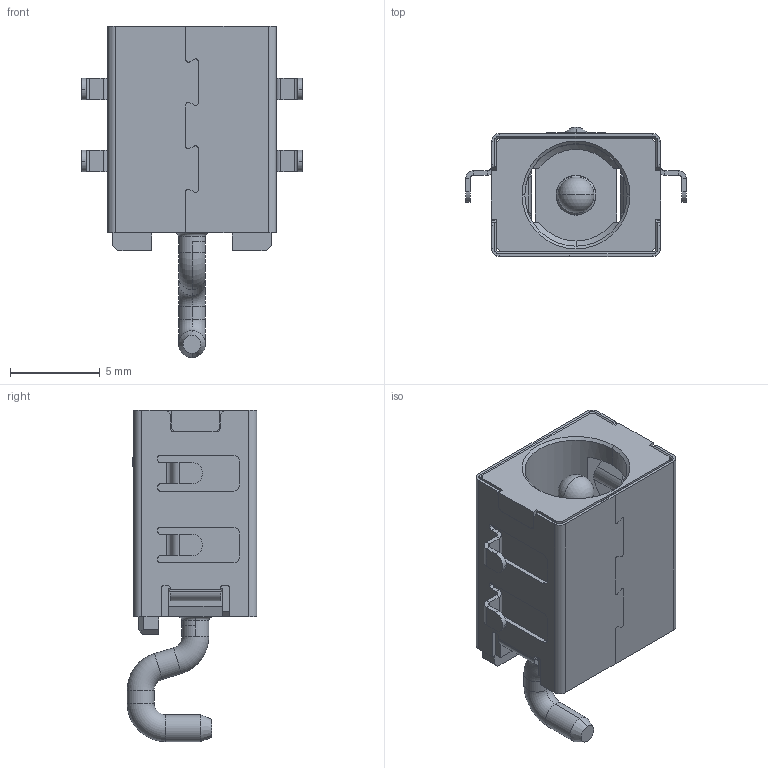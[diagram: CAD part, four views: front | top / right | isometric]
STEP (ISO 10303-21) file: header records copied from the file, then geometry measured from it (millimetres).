
FILE_DESCRIPTION (( 'STEP AP203' ), '1' );
FILE_NAME ('DC-S012C-D020-15A.STEP', '2023-07-14T11:35:24', ( '' ), ( '' ), 'SwSTEP 2.0', 'SolidWorks 2023', '' );
FILE_SCHEMA (( 'CONFIG_CONTROL_DESIGN' ));
Length unit declared in the file: millimetre
Products named in the file (1): DC-S012C-D020-15A
Bounding box: 12.3 x 7.22 x 18.45 mm (x, y, z)
Volume: 421 mm3; surface area: 1722.1 mm2
Topology: 1 solids, 1 shells, 933 faces, 2595 edges, 1645 vertices
Faces by surface type: plane 581, cylinder 242, bspline 78, cone 22, torus 8, sphere 2
Entity records: 33644 total; most frequent: CARTESIAN_POINT 10076, ORIENTED_EDGE 5166, DIRECTION 4523, EDGE_CURVE 2583, LINE 1787, VECTOR 1787, VERTEX_POINT 1635, AXIS2_PLACEMENT_3D 1368
